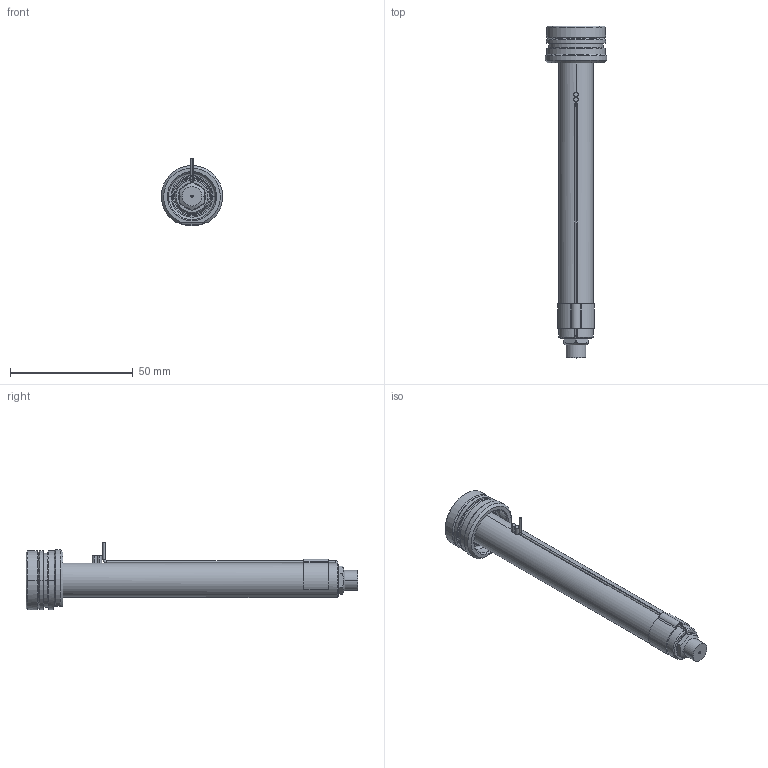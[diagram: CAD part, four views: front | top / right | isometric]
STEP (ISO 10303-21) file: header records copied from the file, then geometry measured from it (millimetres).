
FILE_DESCRIPTION((''),'2;1');
FILE_NAME('EO04_PG-FB_WR_120_SW','2024-02-19T11:23:55',('sundharh'),(''),'CREO PARAMETRIC BY PTC INC, 2023154','CREO PARAMETRIC BY PTC INC, 2023154','');
FILE_SCHEMA(('CONFIG_CONTROL_DESIGN'));
Length unit declared in the file: millimetre
Products named in the file (1): EO04_PG-FB_WR_120_SW
Bounding box: 24.99 x 135 x 27.5 mm (x, y, z)
Volume: 22279.1 mm3; surface area: 11091.7 mm2
Topology: 2 solids, 2 shells, 222 faces, 599 edges, 365 vertices
Faces by surface type: cylinder 84, plane 58, cone 44, torus 22, bspline 11, sphere 3
Entity records: 8278 total; most frequent: CARTESIAN_POINT 2671, DIRECTION 1217, ORIENTED_EDGE 1178, EDGE_CURVE 589, AXIS2_PLACEMENT_3D 510, VERTEX_POINT 365, CIRCLE 299, EDGE_LOOP 238
